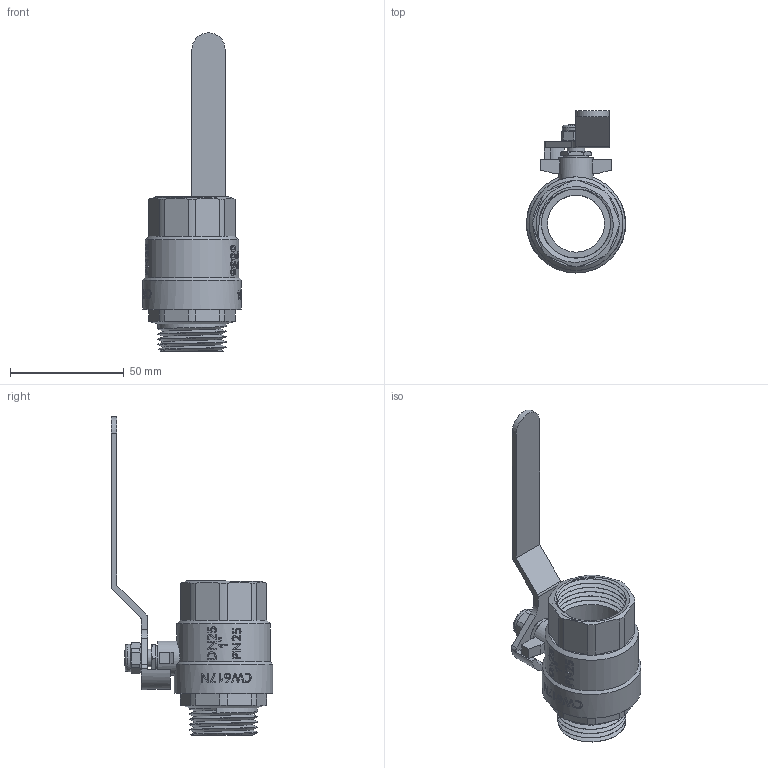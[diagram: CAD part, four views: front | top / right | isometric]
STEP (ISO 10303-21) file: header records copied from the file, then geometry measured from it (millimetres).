
FILE_DESCRIPTION(/* description */ (''),/* implementation_level */ '2;1');
FILE_NAME(/* name */ 'H:\Мишенин_3D\Исходные файлы 3D\VT.215.N.06.stp',/* time_stamp */ '2018-01-16T15:04:24+03:00',/* author */ ('MisheninAL'),/* organization */ (''),/* preprocessor_version */ 'ST-DEVELOPER v16.13',/* originating_system */ 'Autodesk Inventor 2018',/* authorisation */ '');
FILE_SCHEMA (('AUTOMOTIVE_DESIGN { 1 0 10303 214 3 1 1 }'));
Length unit declared in the file: millimetre
Products named in the file (1): VT.214_ВВ_1
Bounding box: 43.5 x 70.94 x 139.7 mm (x, y, z)
Volume: 42281.4 mm3; surface area: 24211.4 mm2
Topology: 1 solids, 1 shells, 499 faces, 1348 edges, 897 vertices
Faces by surface type: plane 224, bspline 178, cylinder 86, cone 9, torus 2
Full cylindrical faces by diameter (mm): 7.791 x1, 10.712 x1, 12.011 x1, 14.932 x1, 25 x1, 30.3 x6, 41.027 x1, 43.299 x1
Entity records: 23754 total; most frequent: CARTESIAN_POINT 12462, ORIENTED_EDGE 2606, DIRECTION 1862, EDGE_CURVE 1303, VERTEX_POINT 874, AXIS2_PLACEMENT_3D 623, LINE 616, VECTOR 616
